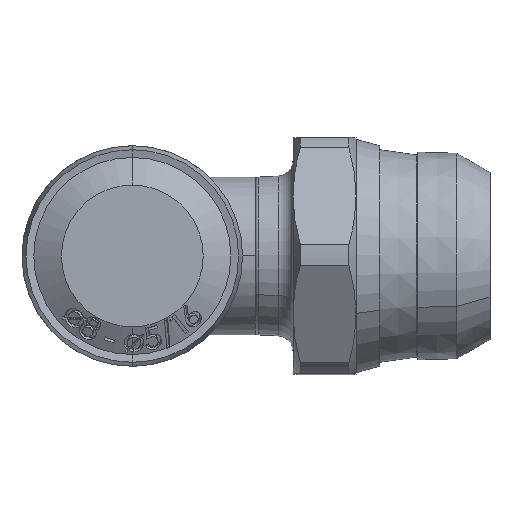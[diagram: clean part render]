
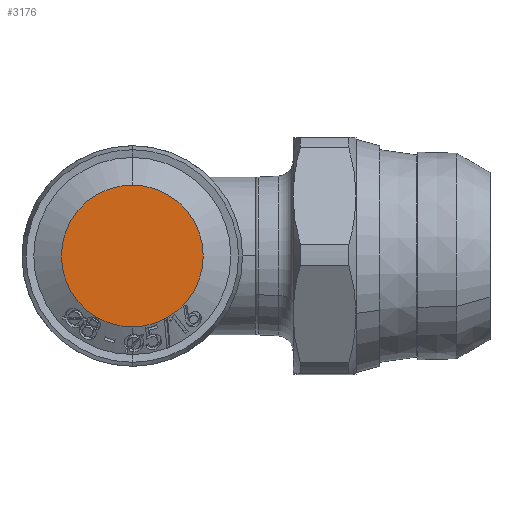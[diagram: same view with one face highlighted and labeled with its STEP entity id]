
A CAD part, left-side view. The second image highlights one B-rep face of the part: STEP entity #3176.
In plain terms, the highlighted planar face has unit normal (-1, 0, 0).
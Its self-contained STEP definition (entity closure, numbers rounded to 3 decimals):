
#850 = VERTEX_POINT ( 'NONE', #19112 ) ;
#1104 = EDGE_LOOP ( 'NONE', ( #1177, #1178 ) ) ;
#1177 = ORIENTED_EDGE ( 'NONE', *, *, #12434, .T. ) ;
#1178 = ORIENTED_EDGE ( 'NONE', *, *, #9750, .T. ) ;
#1719 = AXIS2_PLACEMENT_3D ( 'NONE', #5489, #5491, #5493 ) ;
#1752 = AXIS2_PLACEMENT_3D ( 'NONE', #11029, #11030, #11031 ) ;
#2154 = AXIS2_PLACEMENT_3D ( 'NONE', #16065, #16072, #16073 ) ;
#2322 = FACE_OUTER_BOUND ( 'NONE', #1104, .T. ) ;
#3176 = ADVANCED_FACE ( 'NONE', ( #2322 ), #16069, .F. ) ;
#4370 = CARTESIAN_POINT ( 'NONE',  ( -22.4, 0., -4.5 ) ) ;
#5489 = CARTESIAN_POINT ( 'NONE',  ( -22.4, 0., 0. ) ) ;
#5491 = DIRECTION ( 'NONE',  ( -1., 0., 0. ) ) ;
#5493 = DIRECTION ( 'NONE',  ( 0., 0., 1. ) ) ;
#6891 = VERTEX_POINT ( 'NONE', #4370 ) ;
#9750 = EDGE_CURVE ( 'NONE', #850, #6891, #19155, .T. ) ;
#11029 = CARTESIAN_POINT ( 'NONE',  ( -22.4, 0., 0. ) ) ;
#11030 = DIRECTION ( 'NONE',  ( -1., 0., 0. ) ) ;
#11031 = DIRECTION ( 'NONE',  ( 0., 0., 1. ) ) ;
#12434 = EDGE_CURVE ( 'NONE', #6891, #850, #19245, .T. ) ;
#16065 = CARTESIAN_POINT ( 'NONE',  ( -22.4, 4.389, 0. ) ) ;
#16069 = PLANE ( 'NONE',  #2154 ) ;
#16072 = DIRECTION ( 'NONE',  ( 1., 0., 0. ) ) ;
#16073 = DIRECTION ( 'NONE',  ( 0., 0., -1. ) ) ;
#19112 = CARTESIAN_POINT ( 'NONE',  ( -22.4, 0., 4.5 ) ) ;
#19155 = CIRCLE ( 'NONE', #1719, 4.5 ) ;
#19245 = CIRCLE ( 'NONE', #1752, 4.5 ) ;
